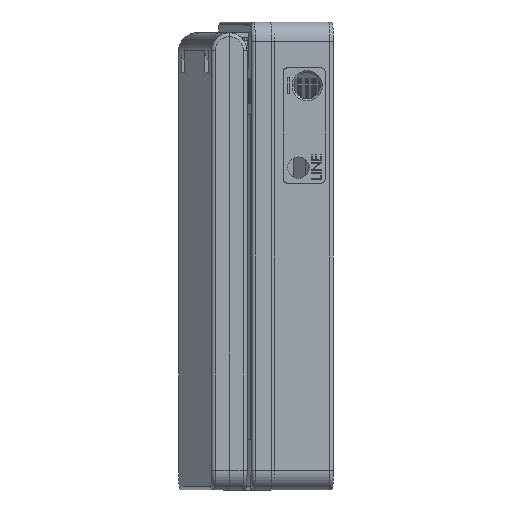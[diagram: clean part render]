
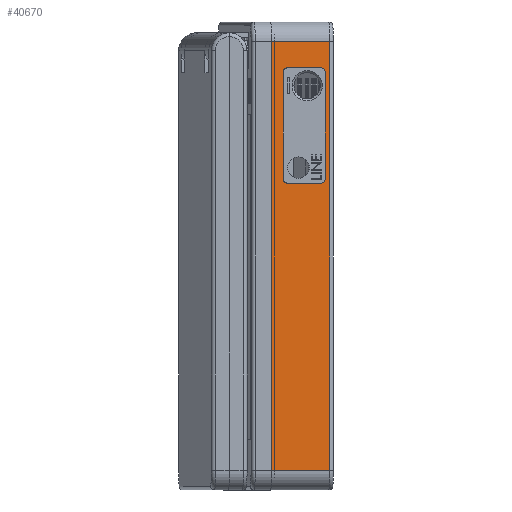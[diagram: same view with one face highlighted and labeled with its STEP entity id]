
A CAD part, left-side view. The second image highlights one B-rep face of the part: STEP entity #40670.
In plain terms, the highlighted planar face has unit normal (-0.999, -0.04, 0) as drawn and (1, 0, 0) by its records, which use the part's own axes.
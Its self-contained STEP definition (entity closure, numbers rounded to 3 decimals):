
#1267 = ORIENTED_EDGE ( 'NONE', *, *, #61787, .F. ) ;
#1927 = AXIS2_PLACEMENT_3D ( 'NONE', #58175, #49083, #34937 ) ;
#2665 = CARTESIAN_POINT ( 'NONE',  ( 209.6, 11.6, -106.1 ) ) ;
#2676 = CARTESIAN_POINT ( 'NONE',  ( 209.6, 15.6, -112.6 ) ) ;
#2757 = VECTOR ( 'NONE', #38135, 1000. ) ;
#2768 = AXIS2_PLACEMENT_3D ( 'NONE', #27662, #60788, #36706 ) ;
#3164 = CIRCLE ( 'NONE', #2768, 1. ) ;
#4909 = DIRECTION ( 'NONE',  ( 0., 0., -1. ) ) ;
#5649 = EDGE_CURVE ( 'NONE', #54148, #20505, #31103, .T. ) ;
#5662 = CIRCLE ( 'NONE', #14538, 1. ) ;
#5921 = DIRECTION ( 'NONE',  ( 0., -1., 0. ) ) ;
#6379 = DIRECTION ( 'NONE',  ( 0., 0., 1. ) ) ;
#6978 = EDGE_CURVE ( 'NONE', #12750, #32288, #19596, .T. ) ;
#9432 = CARTESIAN_POINT ( 'NONE',  ( 209.6, 3.1, -78.1 ) ) ;
#9559 = DIRECTION ( 'NONE',  ( 1., 0., 0. ) ) ;
#10364 = ORIENTED_EDGE ( 'NONE', *, *, #36520, .F. ) ;
#12750 = VERTEX_POINT ( 'NONE', #50087 ) ;
#12761 = VECTOR ( 'NONE', #17187, 1000. ) ;
#13106 = EDGE_CURVE ( 'NONE', #48284, #36555, #39803, .T. ) ;
#14286 = DIRECTION ( 'NONE',  ( 1., 0., 0. ) ) ;
#14538 = AXIS2_PLACEMENT_3D ( 'NONE', #54312, #9559, #4909 ) ;
#14854 = CARTESIAN_POINT ( 'NONE',  ( 209.6, 11.6, -77.1 ) ) ;
#15272 = PLANE ( 'NONE',  #37737 ) ;
#16172 = DIRECTION ( 'NONE',  ( 0., -1., 0. ) ) ;
#17187 = DIRECTION ( 'NONE',  ( 0., 0., -1. ) ) ;
#17556 = EDGE_LOOP ( 'NONE', ( #18590, #1267, #57233, #10364, #29849, #22477, #33868, #37113 ) ) ;
#18112 = AXIS2_PLACEMENT_3D ( 'NONE', #9432, #14286, #48052 ) ;
#18403 = EDGE_CURVE ( 'NONE', #44921, #54509, #19560, .T. ) ;
#18590 = ORIENTED_EDGE ( 'NONE', *, *, #6978, .F. ) ;
#19080 = VECTOR ( 'NONE', #5921, 1000. ) ;
#19192 = ORIENTED_EDGE ( 'NONE', *, *, #51398, .F. ) ;
#19560 = LINE ( 'NONE', #46067, #12761 ) ;
#19596 = LINE ( 'NONE', #48277, #36188 ) ;
#20505 = VERTEX_POINT ( 'NONE', #62684 ) ;
#22477 = ORIENTED_EDGE ( 'NONE', *, *, #45916, .F. ) ;
#23912 = ORIENTED_EDGE ( 'NONE', *, *, #58518, .T. ) ;
#23955 = CARTESIAN_POINT ( 'NONE',  ( 209.6, 3.1, -106.1 ) ) ;
#24599 = CARTESIAN_POINT ( 'NONE',  ( 209.6, 15.6, -5. ) ) ;
#24657 = VECTOR ( 'NONE', #45512, 1000. ) ;
#25029 = ORIENTED_EDGE ( 'NONE', *, *, #13106, .T. ) ;
#25741 = VERTEX_POINT ( 'NONE', #59586 ) ;
#25874 = CARTESIAN_POINT ( 'NONE',  ( 209.6, 15.6, -112.6 ) ) ;
#27040 = EDGE_LOOP ( 'NONE', ( #23912, #25029, #19192, #53900 ) ) ;
#27662 = CARTESIAN_POINT ( 'NONE',  ( 209.6, 11.6, -78.1 ) ) ;
#29419 = VECTOR ( 'NONE', #16172, 1000. ) ;
#29771 = VERTEX_POINT ( 'NONE', #24599 ) ;
#29849 = ORIENTED_EDGE ( 'NONE', *, *, #18403, .F. ) ;
#30214 = CARTESIAN_POINT ( 'NONE',  ( 209.6, 1., -112.6 ) ) ;
#31103 = LINE ( 'NONE', #2665, #61330 ) ;
#32264 = VERTEX_POINT ( 'NONE', #14854 ) ;
#32288 = VERTEX_POINT ( 'NONE', #53058 ) ;
#33700 = LINE ( 'NONE', #38760, #2757 ) ;
#33828 = CARTESIAN_POINT ( 'NONE',  ( 209.6, 1., -5. ) ) ;
#33868 = ORIENTED_EDGE ( 'NONE', *, *, #40219, .F. ) ;
#34937 = DIRECTION ( 'NONE',  ( 0., 0., 1. ) ) ;
#35861 = EDGE_CURVE ( 'NONE', #29771, #44417, #33700, .T. ) ;
#36188 = VECTOR ( 'NONE', #56510, 1000. ) ;
#36454 = CARTESIAN_POINT ( 'NONE',  ( 209.6, 15.6, -5. ) ) ;
#36520 = EDGE_CURVE ( 'NONE', #54509, #54148, #5662, .T. ) ;
#36555 = VERTEX_POINT ( 'NONE', #38063 ) ;
#36706 = DIRECTION ( 'NONE',  ( 0., 0., -1. ) ) ;
#36828 = FACE_OUTER_BOUND ( 'NONE', #27040, .T. ) ;
#37113 = ORIENTED_EDGE ( 'NONE', *, *, #55652, .F. ) ;
#37737 = AXIS2_PLACEMENT_3D ( 'NONE', #53898, #44764, #6379 ) ;
#38063 = CARTESIAN_POINT ( 'NONE',  ( 209.6, 1., -112.6 ) ) ;
#38135 = DIRECTION ( 'NONE',  ( 0., 0., -1. ) ) ;
#38760 = CARTESIAN_POINT ( 'NONE',  ( 209.6, 15.6, -5. ) ) ;
#39803 = LINE ( 'NONE', #30214, #42849 ) ;
#40219 = EDGE_CURVE ( 'NONE', #32264, #25741, #55085, .T. ) ;
#40670 = ADVANCED_FACE ( 'NONE', ( #36828, #42907 ), #15272, .F. ) ;
#41704 = LINE ( 'NONE', #25874, #19080 ) ;
#42849 = VECTOR ( 'NONE', #49612, 1000. ) ;
#42907 = FACE_BOUND ( 'NONE', #17556, .T. ) ;
#44417 = VERTEX_POINT ( 'NONE', #2676 ) ;
#44764 = DIRECTION ( 'NONE',  ( -1., 0., 0. ) ) ;
#44921 = VERTEX_POINT ( 'NONE', #60256 ) ;
#45512 = DIRECTION ( 'NONE',  ( 0., -1., 0. ) ) ;
#45916 = EDGE_CURVE ( 'NONE', #25741, #44921, #50708, .T. ) ;
#46067 = CARTESIAN_POINT ( 'NONE',  ( 209.6, 2.1, -78.1 ) ) ;
#48052 = DIRECTION ( 'NONE',  ( 0., 0., -1. ) ) ;
#48277 = CARTESIAN_POINT ( 'NONE',  ( 209.6, 12.6, -78.1 ) ) ;
#48284 = VERTEX_POINT ( 'NONE', #33828 ) ;
#49083 = DIRECTION ( 'NONE',  ( 1., 0., 0. ) ) ;
#49612 = DIRECTION ( 'NONE',  ( 0., 0., -1. ) ) ;
#50087 = CARTESIAN_POINT ( 'NONE',  ( 209.6, 12.6, -105.1 ) ) ;
#50708 = CIRCLE ( 'NONE', #18112, 1. ) ;
#50784 = DIRECTION ( 'NONE',  ( 0., 1., 0. ) ) ;
#51398 = EDGE_CURVE ( 'NONE', #44417, #36555, #41704, .T. ) ;
#53058 = CARTESIAN_POINT ( 'NONE',  ( 209.6, 12.6, -78.1 ) ) ;
#53898 = CARTESIAN_POINT ( 'NONE',  ( 209.6, 15.6, -5. ) ) ;
#53900 = ORIENTED_EDGE ( 'NONE', *, *, #35861, .F. ) ;
#54148 = VERTEX_POINT ( 'NONE', #23955 ) ;
#54312 = CARTESIAN_POINT ( 'NONE',  ( 209.6, 3.1, -105.1 ) ) ;
#54509 = VERTEX_POINT ( 'NONE', #55623 ) ;
#55085 = LINE ( 'NONE', #55212, #29419 ) ;
#55212 = CARTESIAN_POINT ( 'NONE',  ( 209.6, 11.6, -77.1 ) ) ;
#55623 = CARTESIAN_POINT ( 'NONE',  ( 209.6, 2.1, -105.1 ) ) ;
#55652 = EDGE_CURVE ( 'NONE', #32288, #32264, #3164, .T. ) ;
#56510 = DIRECTION ( 'NONE',  ( 0., 0., 1. ) ) ;
#57233 = ORIENTED_EDGE ( 'NONE', *, *, #5649, .F. ) ;
#57866 = LINE ( 'NONE', #36454, #24657 ) ;
#58175 = CARTESIAN_POINT ( 'NONE',  ( 209.6, 11.6, -105.1 ) ) ;
#58518 = EDGE_CURVE ( 'NONE', #29771, #48284, #57866, .T. ) ;
#59586 = CARTESIAN_POINT ( 'NONE',  ( 209.6, 3.1, -77.1 ) ) ;
#60256 = CARTESIAN_POINT ( 'NONE',  ( 209.6, 2.1, -78.1 ) ) ;
#60788 = DIRECTION ( 'NONE',  ( 1., 0., 0. ) ) ;
#61330 = VECTOR ( 'NONE', #50784, 1000. ) ;
#61787 = EDGE_CURVE ( 'NONE', #20505, #12750, #62665, .T. ) ;
#62665 = CIRCLE ( 'NONE', #1927, 1. ) ;
#62684 = CARTESIAN_POINT ( 'NONE',  ( 209.6, 11.6, -106.1 ) ) ;
